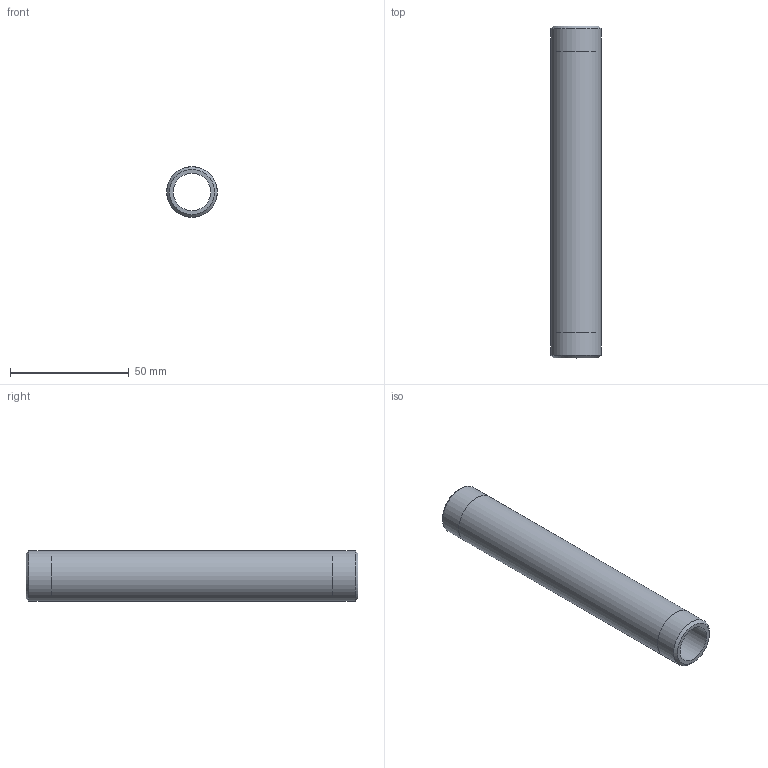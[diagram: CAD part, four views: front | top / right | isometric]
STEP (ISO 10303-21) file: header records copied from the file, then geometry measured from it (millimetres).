
FILE_DESCRIPTION(/* description */ (''),/* implementation_level */ '2;1');
FILE_NAME(/* name */ 'C:/Users/drich/Desktop/BPN12-5-1_2 v1.step',/* time_stamp */ '2020-01-03T14:33:49-06:00',/* author */ (''),/* organization */ (''),/* preprocessor_version */ 'ST-DEVELOPER v18',/* originating_system */ 'Autodesk Translation Framework v8.12.0.6',/* authorisation */ '');
FILE_SCHEMA (('AUTOMOTIVE_DESIGN { 1 0 10303 214 3 1 1 }'));
Length unit declared in the file: inch
Products named in the file (1): BPN12-5-1_2
Bounding box: 21.34 x 139.7 x 21.34 mm (x, y, z)
Volume: 22440.4 mm3; surface area: 16524.4 mm2
Topology: 1 solids, 1 shells, 10 faces, 24 edges, 18 vertices
Faces by surface type: cylinder 4, plane 4, cone 2
Full cylindrical faces by diameter (mm): 15.799 x1, 21.285 x2, 21.336 x1
Entity records: 360 total; most frequent: DIRECTION 64, CARTESIAN_POINT 53, ORIENTED_EDGE 48, AXIS2_PLACEMENT_3D 29, EDGE_CURVE 24, CIRCLE 18, VERTEX_POINT 18, EDGE_LOOP 14
